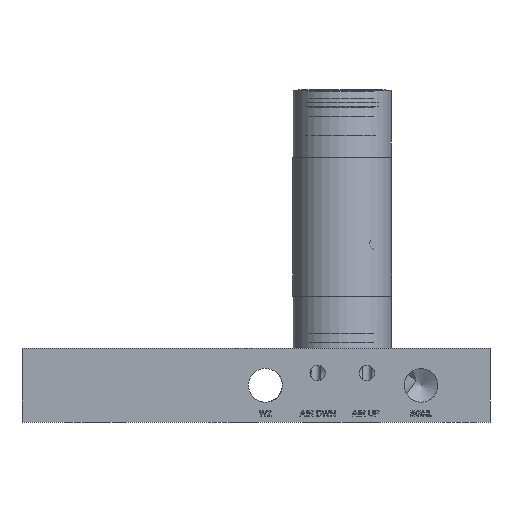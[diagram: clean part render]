
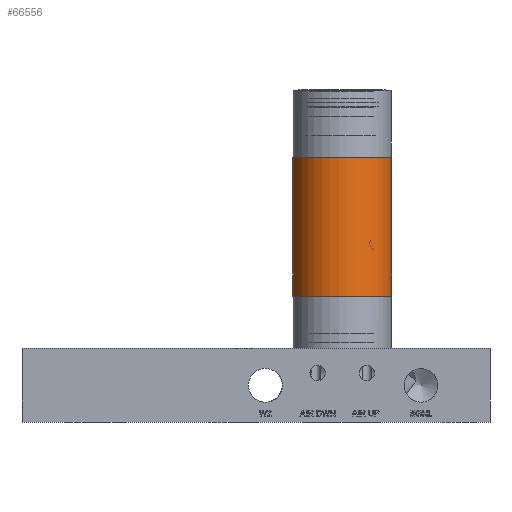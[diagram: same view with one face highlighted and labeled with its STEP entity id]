
A CAD part, front view. The second image highlights one B-rep face of the part: STEP entity #66556.
In plain terms, the highlighted cylindrical face has radius 12.827 mm (diameter 25.654 mm), a full revolution.
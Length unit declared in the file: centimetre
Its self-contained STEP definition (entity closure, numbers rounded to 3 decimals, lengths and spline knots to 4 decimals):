
#4152=CYLINDRICAL_SURFACE('',#72452,1.2827);
#7528=FACE_OUTER_BOUND('',#11710,.T.);
#11710=EDGE_LOOP('',(#54882,#54883,#54884,#54885));
#19724=CIRCLE('',#72453,1.2827);
#19725=CIRCLE('',#72454,1.2827);
#21386=LINE('',#179649,#23561);
#23561=VECTOR('',#84571,1.2827);
#28837=VERTEX_POINT('',#179646);
#28838=VERTEX_POINT('',#179648);
#37791=EDGE_CURVE('',#28837,#28837,#19724,.T.);
#37792=EDGE_CURVE('',#28837,#28838,#21386,.T.);
#37793=EDGE_CURVE('',#28838,#28838,#19725,.T.);
#54882=ORIENTED_EDGE('',*,*,#37791,.T.);
#54883=ORIENTED_EDGE('',*,*,#37792,.T.);
#54884=ORIENTED_EDGE('',*,*,#37793,.F.);
#54885=ORIENTED_EDGE('',*,*,#37792,.F.);
#66556=ADVANCED_FACE('',(#7528),#4152,.T.);
#72452=AXIS2_PLACEMENT_3D('',#179645,#84567,#84568);
#72453=AXIS2_PLACEMENT_3D('',#179647,#84569,#84570);
#72454=AXIS2_PLACEMENT_3D('',#179650,#84572,#84573);
#84567=DIRECTION('center_axis',(0.,0.,
1.));
#84568=DIRECTION('ref_axis',(0.97,-0.245,0.));
#84569=DIRECTION('center_axis',(0.,0.,
-1.));
#84570=DIRECTION('ref_axis',(0.97,-0.245,0.));
#84571=DIRECTION('',(0.,0.,-1.));
#84572=DIRECTION('center_axis',(0.,0.,
-1.));
#84573=DIRECTION('ref_axis',(0.97,-0.245,0.));
#179645=CARTESIAN_POINT('Origin',(0.,0.,
3.2513));
#179646=CARTESIAN_POINT('',(-1.2437,0.3139,6.8327));
#179647=CARTESIAN_POINT('Origin',(0.,0.,
6.8327));
#179648=CARTESIAN_POINT('',(-1.2437,0.3139,3.2513));
#179649=CARTESIAN_POINT('',(-1.2437,0.3139,3.2513));
#179650=CARTESIAN_POINT('Origin',(0.,0.,
3.2513));
